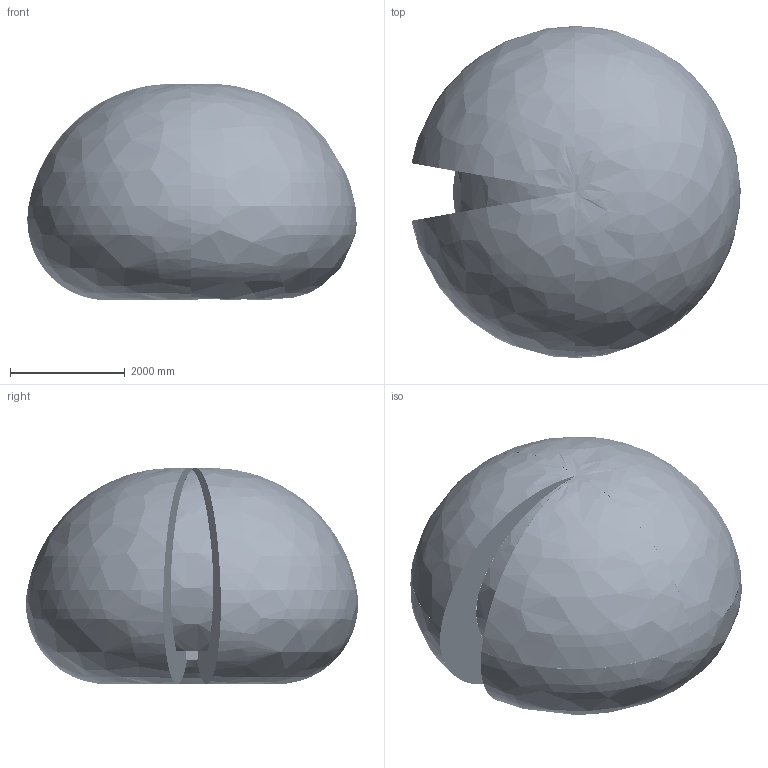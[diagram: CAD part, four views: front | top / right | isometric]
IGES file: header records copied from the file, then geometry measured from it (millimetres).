
Start section: SolidWorks IGES file using analytic representation for surfaces
Global section: file name: C:\DATA\SAP_DOC\LW\IRB 6730\IRB6730-MH3_240kg-290_OC_01_SW_J\Export\IRB6730-MH3_240kg-290_OC_01_IGES_J\IRB6730-MH3_240kg-290_OC_01_ASM_CAD.igs; native system: SolidWorks 2024; preprocessor: SolidWorks 2024; author: SEJOVAS3; date: 260526.113629; units: millimetre
Bounding box: 5731.51 x 5778.17 x 3760.44 mm (x, y, z)
Surface area: 122644400.1 mm2 (no closed solid volume)
Topology: 0 solids, 0 shells, 9369 faces, 143521 edges, 143375 vertices
Faces by surface type: bspline 5521, revolution 3848
